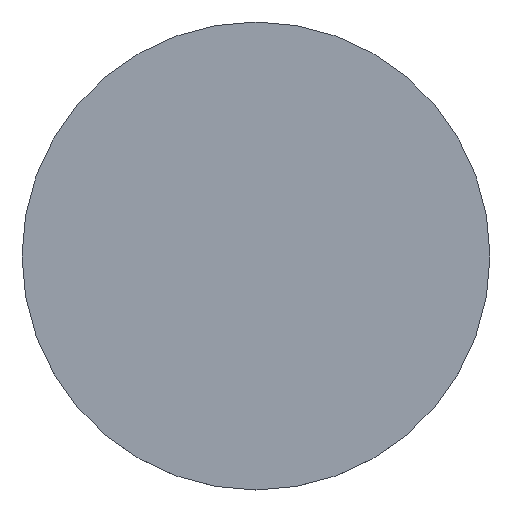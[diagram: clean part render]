
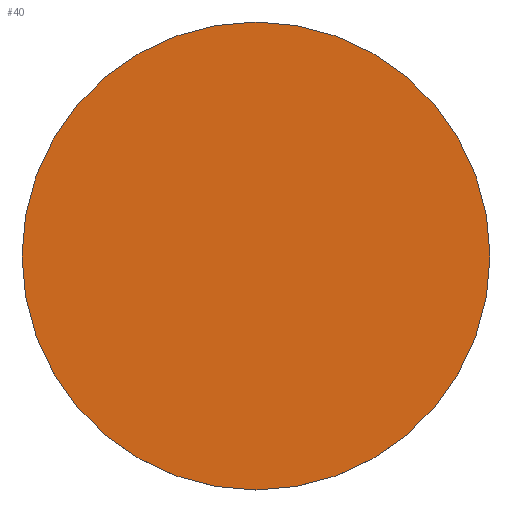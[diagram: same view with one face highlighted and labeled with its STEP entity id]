
A CAD part, top view. The second image highlights one B-rep face of the part: STEP entity #40.
In plain terms, the highlighted planar face has unit normal (0, 0, 1).
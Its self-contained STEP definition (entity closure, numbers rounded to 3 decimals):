
#15=PLANE('',#59);
#18=FACE_OUTER_BOUND('',#21,.T.);
#21=EDGE_LOOP('',(#36));
#25=CIRCLE('',#57,1.1);
#27=VERTEX_POINT('',#76);
#29=EDGE_CURVE('',#27,#27,#25,.T.);
#36=ORIENTED_EDGE('',*,*,#29,.T.);
#40=ADVANCED_FACE('',(#18),#15,.T.);
#57=AXIS2_PLACEMENT_3D('',#77,#65,#66);
#59=AXIS2_PLACEMENT_3D('',#81,#70,#71);
#65=DIRECTION('center_axis',(0.,0.,1.));
#66=DIRECTION('ref_axis',(1.,0.,0.));
#70=DIRECTION('center_axis',(0.,0.,1.));
#71=DIRECTION('ref_axis',(1.,0.,0.));
#76=CARTESIAN_POINT('',(-1.1,-14.,-2.201));
#77=CARTESIAN_POINT('Origin',(0.,-14.,-2.201));
#81=CARTESIAN_POINT('Origin',(0.,-14.,-2.201));
